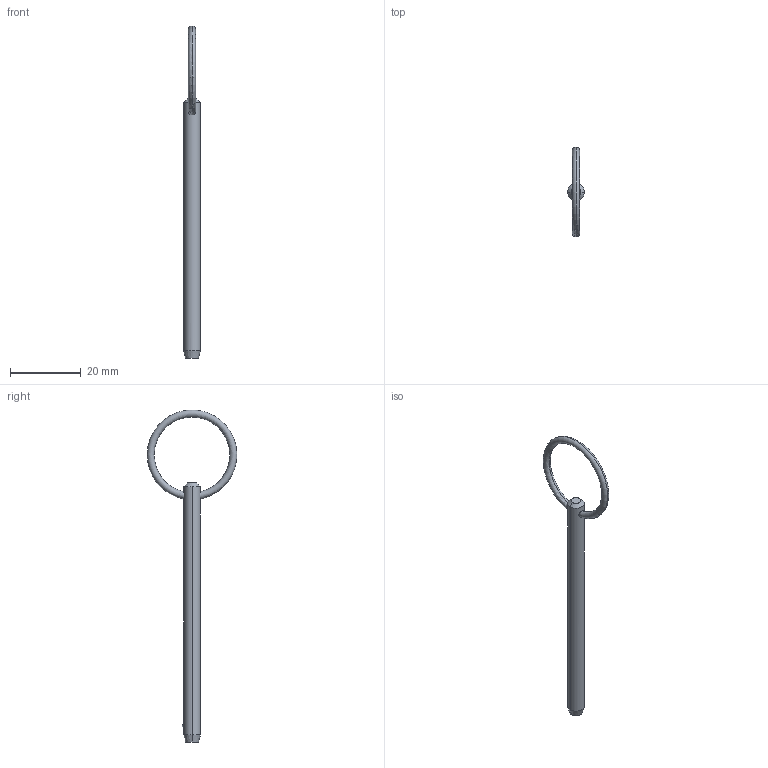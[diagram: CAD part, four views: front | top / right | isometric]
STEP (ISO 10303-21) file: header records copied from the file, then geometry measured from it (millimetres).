
FILE_DESCRIPTION (( 'STEP AP203' ), '1' );
FILE_NAME ('P1250.018-250.step', '2019-07-29T19:34:16', ( '' ), ( '' ), 'SwSTEP 2.0', 'SolidWorks 2017', '' );
FILE_SCHEMA (( 'CONFIG_CONTROL_DESIGN' ));
Length unit declared in the file: millimetre
Products named in the file (1): P1250.018-250
Bounding box: 4.76 x 25.4 x 93.98 mm (x, y, z)
Volume: 1507.3 mm3; surface area: 1539.6 mm2
Topology: 1 solids, 1 shells, 12 faces, 28 edges, 17 vertices
Faces by surface type: cone 4, torus 2, sphere 2, cylinder 2, plane 2
Entity records: 471 total; most frequent: CARTESIAN_POINT 138, DIRECTION 56, ORIENTED_EDGE 48, AXIS2_PLACEMENT_3D 25, EDGE_CURVE 24, VERTEX_POINT 15, EDGE_LOOP 15, FACE_OUTER_BOUND 12
